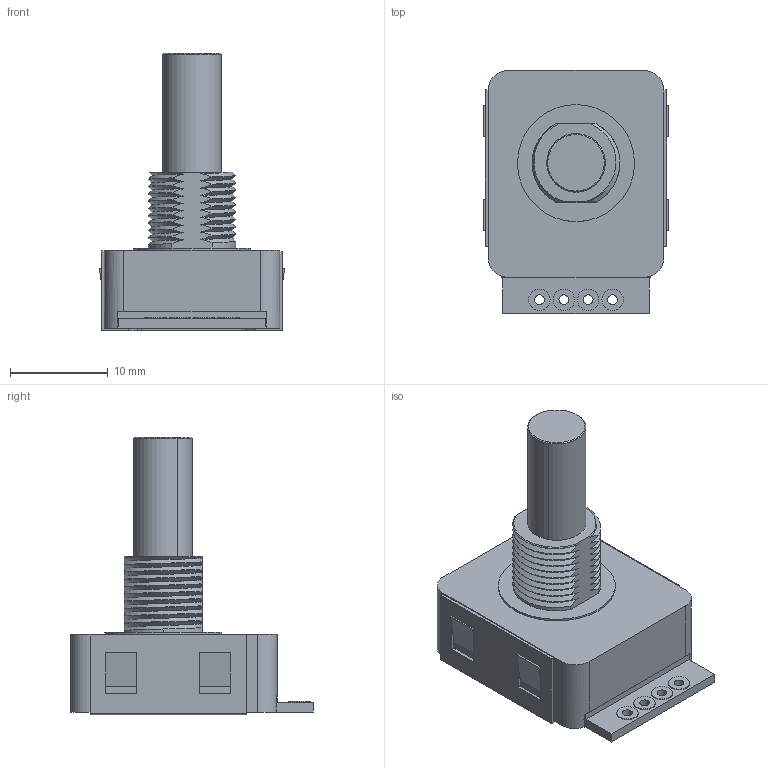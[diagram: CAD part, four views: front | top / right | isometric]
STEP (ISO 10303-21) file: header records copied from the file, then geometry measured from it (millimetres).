
FILE_DESCRIPTION (( 'STEP AP214' ), '1' );
FILE_NAME ('MRBC25_DB.STEP', '2012-09-20T13:25:25', ( '' ), ( '' ), 'SwSTEP 2.0', 'SolidWorks 2012', '' );
FILE_SCHEMA (( 'AUTOMOTIVE_DESIGN' ));
Length unit declared in the file: millimetre
Products named in the file (7): PlastikZwischenlage; Keil; Blechle; Platine; Welle; Gehäuse; MRBC25_DB
Assembly tree (9 placements, depth 2):
  MRBC25_DB
    Gehäuse
    Welle
    Platine
    Blechle
    Keil  x4
    PlastikZwischenlage
Bounding box: 19 x 24.91 x 28.5 mm (x, y, z)
Volume: 2304 mm3; surface area: 5254.8 mm2
Topology: 9 solids, 9 shells, 243 faces, 638 edges, 424 vertices
Faces by surface type: plane 104, cylinder 92, bspline 45, cone 2
Entity records: 24509 total; most frequent: CARTESIAN_POINT 18653, ORIENTED_EDGE 1222, DIRECTION 952, EDGE_CURVE 611, VERTEX_POINT 406, AXIS2_PLACEMENT_3D 322, VECTOR 308, LINE 308
